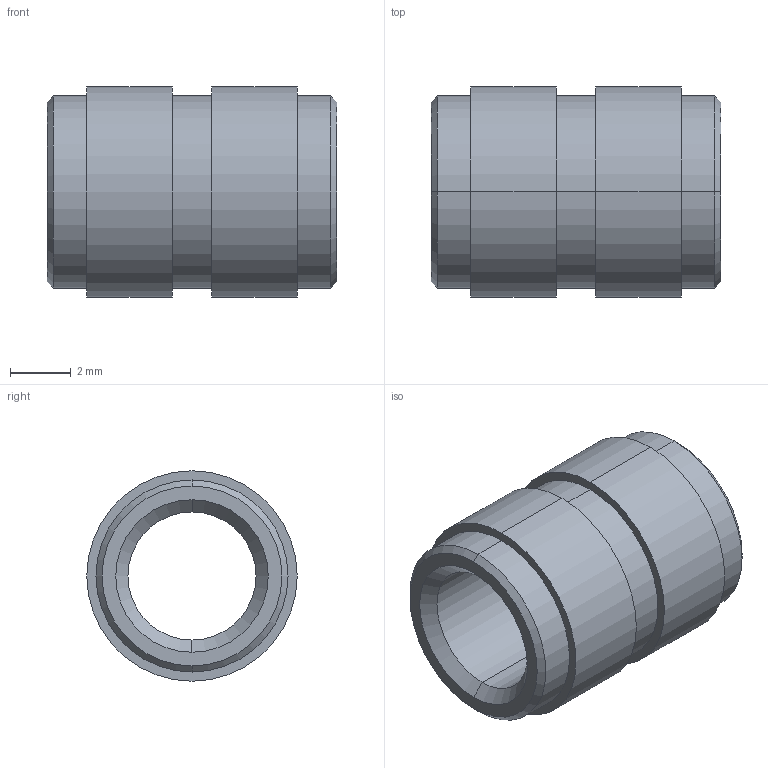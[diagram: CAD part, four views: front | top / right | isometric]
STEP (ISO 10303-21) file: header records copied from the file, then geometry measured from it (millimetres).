
FILE_DESCRIPTION (( 'STEP AP203' ), '1' );
FILE_NAME ('FSUK-HIHL-M05-S.STEP', '2021-04-15T12:48:14', ( '' ), ( '' ), 'SwSTEP 2.0', 'SolidWorks 2021', '' );
FILE_SCHEMA (( 'CONFIG_CONTROL_DESIGN' ));
Length unit declared in the file: millimetre
Products named in the file (1): FSUK-HIHL-M05-S
Bounding box: 9.5 x 6.9 x 6.9 mm (x, y, z)
Volume: 196.3 mm3; surface area: 372.9 mm2
Topology: 1 solids, 1 shells, 26 faces, 52 edges, 32 vertices
Faces by surface type: cylinder 12, cone 8, plane 6
Entity records: 765 total; most frequent: DIRECTION 138, CARTESIAN_POINT 111, ORIENTED_EDGE 104, AXIS2_PLACEMENT_3D 59, EDGE_CURVE 52, EDGE_LOOP 32, VERTEX_POINT 32, CIRCLE 32
